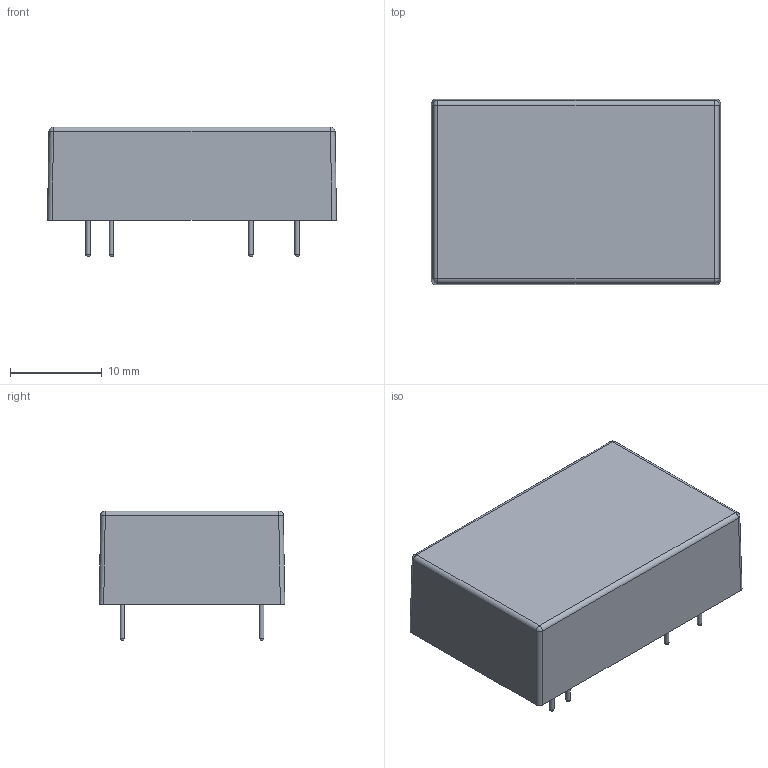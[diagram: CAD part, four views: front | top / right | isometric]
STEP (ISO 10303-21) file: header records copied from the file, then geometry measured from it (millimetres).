
FILE_DESCRIPTION(/* description */ (''),/* implementation_level */ '2;1');
FILE_NAME(/* name */ 'PFD6-XXDXXE2N3.stp',/* time_stamp */ '2025-07-15T11:28:58+08:00',/* author */ (''),/* organization */ (''),/* preprocessor_version */ 'ST-DEVELOPER v16',/* originating_system */ 'SIEMENS PLM Software NX 10.0',/* authorisation */ '123');
FILE_SCHEMA (('AUTOMOTIVE_DESIGN { 1 0 10303 214 3 1 1 1 }'));
Length unit declared in the file: millimetre
Products named in the file (1): admi5B74520Af1r5
Bounding box: 31.6 x 20.3 x 14.2 mm (x, y, z)
Volume: 6441.8 mm3; surface area: 2438.4 mm2
Topology: 9 solids, 9 shells, 90 faces, 176 edges, 116 vertices
Faces by surface type: cylinder 40, plane 38, sphere 12
Full cylindrical faces by diameter (mm): 0.5 x32
Entity records: 1893 total; most frequent: DIRECTION 362, CARTESIAN_POINT 275, ORIENTED_EDGE 200, AXIS2_PLACEMENT_3D 171, EDGE_LOOP 146, EDGE_CURVE 100, ADVANCED_FACE 90, FACE_BOUND 89
